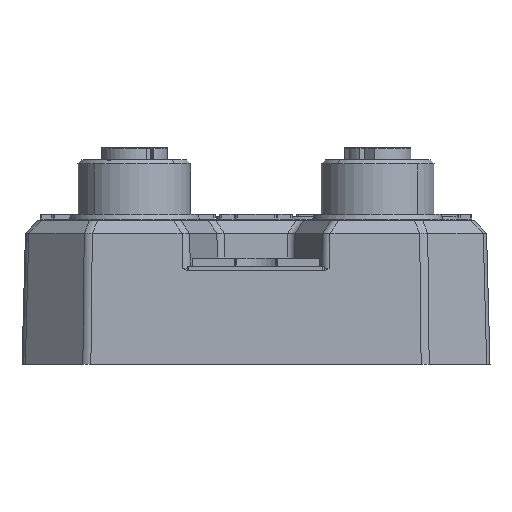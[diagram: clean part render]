
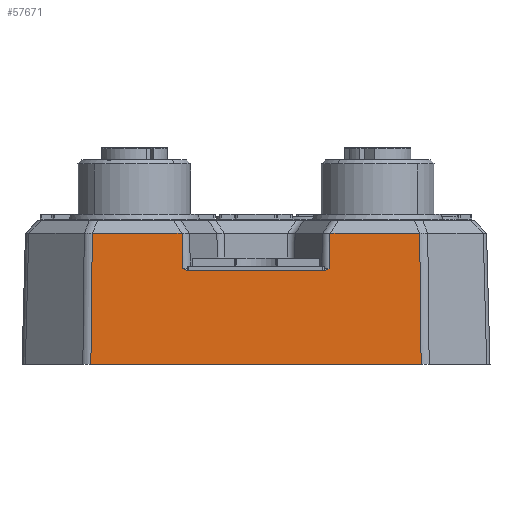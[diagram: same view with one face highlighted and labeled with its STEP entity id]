
A CAD part, front view. The second image highlights one B-rep face of the part: STEP entity #57671.
In plain terms, the highlighted planar face has unit normal (0, -1, 0.026).
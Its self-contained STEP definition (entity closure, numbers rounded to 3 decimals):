
#1661=CARTESIAN_POINT('',(20.179,-81.925,21.96));
#2315=CARTESIAN_POINT('',(-20.179,-81.925,
21.96));
#2323=DIRECTION('',(1.,0.,0.));
#2324=VECTOR('',#2323,16.53);
#2325=CARTESIAN_POINT('',(-8.27,-82.044,17.4));
#2326=LINE('',#2325,#2324);
#2327=DIRECTION('',(-0.018,-0.026,-1.));
#2328=VECTOR('',#2327,4.367);
#2329=CARTESIAN_POINT('',(9.118,-81.925,21.96));
#2330=LINE('',#2329,#2328);
#2331=DIRECTION('',(-1.,0.,0.));
#2332=VECTOR('',#2331,11.061);
#2333=CARTESIAN_POINT('',(20.179,-81.925,21.96));
#2334=LINE('',#2333,#2332);
#2335=DIRECTION('',(-0.011,0.026,1.));
#2336=VECTOR('',#2335,16.166);
#2337=CARTESIAN_POINT('',(20.357,-82.348,5.8));
#2338=LINE('',#2337,#2336);
#2339=DIRECTION('',(-1.,0.,0.));
#2340=VECTOR('',#2339,40.715);
#2341=CARTESIAN_POINT('',(20.357,-82.348,5.8));
#2342=LINE('',#2341,#2340);
#2343=DIRECTION('',(-0.011,-0.026,-1.));
#2344=VECTOR('',#2343,16.166);
#2345=CARTESIAN_POINT('',(-20.179,-81.925,
21.96));
#2346=LINE('',#2345,#2344);
#2347=DIRECTION('',(-1.,0.,0.));
#2348=VECTOR('',#2347,11.061);
#2349=CARTESIAN_POINT('',(-9.118,-81.925,
21.96));
#2350=LINE('',#2349,#2348);
#2351=DIRECTION('',(-0.018,0.026,1.));
#2352=VECTOR('',#2351,4.367);
#2353=CARTESIAN_POINT('',(-9.041,-82.039,
17.595));
#2354=LINE('',#2353,#2352);
#2368=DIRECTION('',(-1.,0.,0.));
#2369=VECTOR('',#2368,0.116);
#2370=CARTESIAN_POINT('',(-8.27,-82.044,17.4));
#2371=LINE('',#2370,#2369);
#2390=CARTESIAN_POINT('',(-8.386,-82.044,
17.4));
#2391=CARTESIAN_POINT('',(-8.422,-82.044,
17.4));
#2392=CARTESIAN_POINT('',(-8.496,-82.044,
17.406));
#2393=CARTESIAN_POINT('',(-8.619,-82.044,
17.431));
#2394=CARTESIAN_POINT('',(-8.751,-82.042,
17.472));
#2395=CARTESIAN_POINT('',(-8.891,-82.041,
17.528));
#2396=CARTESIAN_POINT('',(-8.99,-82.04,
17.572));
#2397=CARTESIAN_POINT('',(-9.041,-82.039,
17.595));
#2718=CARTESIAN_POINT('',(9.041,-82.039,17.595));
#2719=CARTESIAN_POINT('',(8.99,-82.04,17.572));
#2720=CARTESIAN_POINT('',(8.891,-82.041,17.528));
#2721=CARTESIAN_POINT('',(8.751,-82.042,17.472));
#2722=CARTESIAN_POINT('',(8.619,-82.044,17.431));
#2723=CARTESIAN_POINT('',(8.496,-82.044,17.406));
#2724=CARTESIAN_POINT('',(8.422,-82.044,17.4));
#2725=CARTESIAN_POINT('',(8.386,-82.044,17.4));
#2738=DIRECTION('',(-1.,0.,0.));
#2739=VECTOR('',#2738,0.126);
#2740=CARTESIAN_POINT('',(8.386,-82.044,17.4));
#2741=LINE('',#2740,#2739);
#48687=VERTEX_POINT('',#2315);
#48698=VERTEX_POINT('',#1661);
#48736=CARTESIAN_POINT('',(-9.118,-81.925,
21.96));
#48737=VERTEX_POINT('',#48736);
#48740=CARTESIAN_POINT('',(9.118,-81.925,
21.96));
#48741=VERTEX_POINT('',#48740);
#48962=CARTESIAN_POINT('',(20.357,-82.348,5.8));
#48963=CARTESIAN_POINT('',(-20.357,-82.348,5.8));
#48964=VERTEX_POINT('',#48962);
#48965=VERTEX_POINT('',#48963);
#51954=CARTESIAN_POINT('',(9.041,-82.039,
17.595));
#51955=VERTEX_POINT('',#51954);
#51956=CARTESIAN_POINT('',(-9.041,-82.039,
17.595));
#51957=VERTEX_POINT('',#51956);
#51958=VERTEX_POINT('',#2725);
#51959=VERTEX_POINT('',#2390);
#53673=CARTESIAN_POINT('',(-8.27,-82.044,17.4));
#53674=CARTESIAN_POINT('',(8.26,-82.044,17.4));
#53675=VERTEX_POINT('',#53673);
#53676=VERTEX_POINT('',#53674);
#57644=CARTESIAN_POINT('',(-32.118,-82.5,0.));
#57645=DIRECTION('',(0.,-1.,0.026));
#57646=DIRECTION('',(-1.,0.,0.));
#57647=AXIS2_PLACEMENT_3D('',#57644,#57645,#57646);
#57648=PLANE('',#57647);
#57650=ORIENTED_EDGE('',*,*,#57649,.T.);
#57652=ORIENTED_EDGE('',*,*,#57651,.F.);
#57654=ORIENTED_EDGE('',*,*,#57653,.F.);
#57656=ORIENTED_EDGE('',*,*,#57655,.F.);
#57657=ORIENTED_EDGE('',*,*,#56705,.F.);
#57658=ORIENTED_EDGE('',*,*,#56731,.F.);
#57659=ORIENTED_EDGE('',*,*,#56760,.T.);
#57660=ORIENTED_EDGE('',*,*,#57639,.F.);
#57662=ORIENTED_EDGE('',*,*,#57661,.F.);
#57664=ORIENTED_EDGE('',*,*,#57663,.F.);
#57666=ORIENTED_EDGE('',*,*,#57665,.F.);
#57668=ORIENTED_EDGE('',*,*,#57667,.F.);
#57669=EDGE_LOOP('',(#57650,#57652,#57654,#57656,#57657,#57658,#57659,#57660,
#57662,#57664,#57666,#57668));
#57670=FACE_OUTER_BOUND('',#57669,.F.);
#57671=ADVANCED_FACE('',(#57670),#57648,.T.);
#2398=B_SPLINE_CURVE_WITH_KNOTS('',3,(#2390,#2391,#2392,#2393,#2394,#2395,#2396,
#2397),.UNSPECIFIED.,.F.,.F.,(4,1,1,1,1,4),(0.,0.2,0.4,0.6,0.8,1.),
.UNSPECIFIED.);
#2726=B_SPLINE_CURVE_WITH_KNOTS('',3,(#2718,#2719,#2720,#2721,#2722,#2723,#2724,
#2725),.UNSPECIFIED.,.F.,.F.,(4,1,1,1,1,4),(0.,0.2,0.4,0.6,0.8,1.),
.UNSPECIFIED.);
#56705=EDGE_CURVE('',#48698,#48741,#2334,.T.);
#56731=EDGE_CURVE('',#48964,#48698,#2338,.T.);
#56760=EDGE_CURVE('',#48964,#48965,#2342,.T.);
#57639=EDGE_CURVE('',#48687,#48965,#2346,.T.);
#57649=EDGE_CURVE('',#53675,#53676,#2326,.T.);
#57651=EDGE_CURVE('',#51958,#53676,#2741,.T.);
#57653=EDGE_CURVE('',#51955,#51958,#2726,.T.);
#57655=EDGE_CURVE('',#48741,#51955,#2330,.T.);
#57661=EDGE_CURVE('',#48737,#48687,#2350,.T.);
#57663=EDGE_CURVE('',#51957,#48737,#2354,.T.);
#57665=EDGE_CURVE('',#51959,#51957,#2398,.T.);
#57667=EDGE_CURVE('',#53675,#51959,#2371,.T.);
